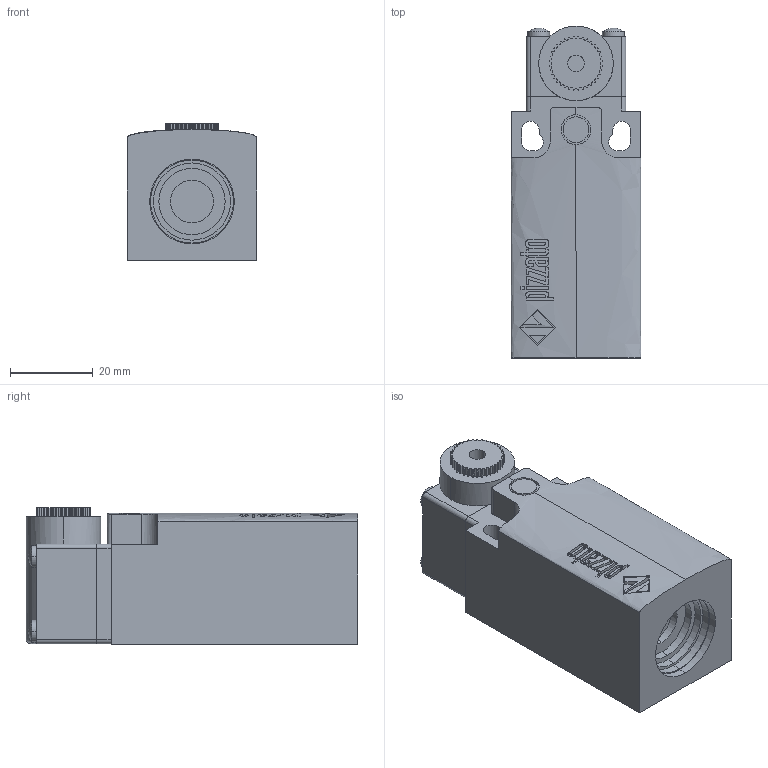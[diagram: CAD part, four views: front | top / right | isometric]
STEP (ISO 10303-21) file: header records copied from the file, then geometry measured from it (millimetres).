
FILE_DESCRIPTION (( 'STEP AP203' ), '1' );
FILE_NAME ('ZF_STEP_FR_x38.STEP', '2024-02-26T08:56:54', ( '' ), ( '' ), 'SwSTEP 2.0', 'SolidWorks 2023', '' );
FILE_SCHEMA (( 'CONFIG_CONTROL_DESIGN' ));
Length unit declared in the file: millimetre
Products named in the file (5): Pizzato_Supporto_TE38; Pizzato_Custodia_FR_3dweb; ZF_STEP_VF_TE38; ZF_STEP_FR_x38
Assembly tree (4 placements, depth 3):
  ZF_STEP_FR_x38
    Pizzato_Custodia_FR_3dweb
      Pizzato_Custodia_FR_3dweb
    ZF_STEP_VF_TE38
      Pizzato_Supporto_TE38
Bounding box: 31.2 x 80 x 33 mm (x, y, z)
Volume: 65446.8 mm3; surface area: 15436 mm2
Topology: 2 solids, 2 shells, 548 faces, 1494 edges, 994 vertices
Faces by surface type: plane 296, cylinder 129, bspline 114, sphere 8, torus 1
Entity records: 21744 total; most frequent: CARTESIAN_POINT 8031, ORIENTED_EDGE 2988, DIRECTION 2351, EDGE_CURVE 1494, VERTEX_POINT 994, VECTOR 935, LINE 935, AXIS2_PLACEMENT_3D 708
